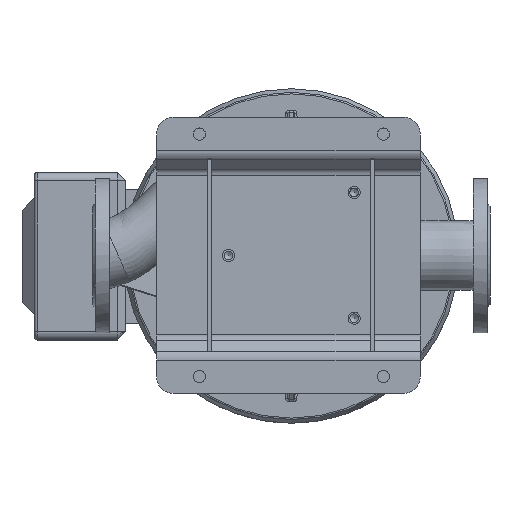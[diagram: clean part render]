
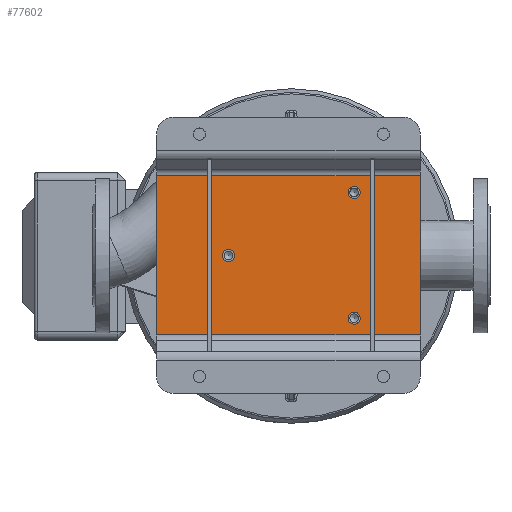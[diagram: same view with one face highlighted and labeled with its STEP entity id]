
A CAD part, top view. The second image highlights one B-rep face of the part: STEP entity #77602.
In plain terms, the highlighted planar face has unit normal (0, 0, 1) as drawn and (0, -1, 0) by its records, which use the part's own axes.
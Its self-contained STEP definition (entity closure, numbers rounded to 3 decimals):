
#2511 = EDGE_CURVE ( 'NONE', #83772, #73827, #88383, .T. ) ;
#5083 = VECTOR ( 'NONE', #79315, 1000. ) ;
#5724 = LINE ( 'NONE', #79782, #5083 ) ;
#7248 = CARTESIAN_POINT ( 'NONE',  ( 95., -5., -161. ) ) ;
#7690 = LINE ( 'NONE', #22869, #32623 ) ;
#8529 = DIRECTION ( 'NONE',  ( 0., -1., 0. ) ) ;
#8721 = CARTESIAN_POINT ( 'NONE',  ( 95., -5., 154. ) ) ;
#9682 = VERTEX_POINT ( 'NONE', #14560 ) ;
#10979 = ORIENTED_EDGE ( 'NONE', *, *, #44905, .F. ) ;
#11574 = CIRCLE ( 'NONE', #25689, 7.25 ) ;
#12175 = CIRCLE ( 'NONE', #49801, 7.25 ) ;
#13720 = EDGE_LOOP ( 'NONE', ( #10979 ) ) ;
#13795 = ORIENTED_EDGE ( 'NONE', *, *, #92319, .F. ) ;
#14560 = CARTESIAN_POINT ( 'NONE',  ( -95., -5., 154. ) ) ;
#14676 = FACE_BOUND ( 'NONE', #13720, .T. ) ;
#15085 = VERTEX_POINT ( 'NONE', #38144 ) ;
#15633 = PLANE ( 'NONE',  #82169 ) ;
#19540 = EDGE_LOOP ( 'NONE', ( #50595 ) ) ;
#21175 = DIRECTION ( 'NONE',  ( -1., 0., 0. ) ) ;
#22869 = CARTESIAN_POINT ( 'NONE',  ( -95., -5., 154. ) ) ;
#24053 = DIRECTION ( 'NONE',  ( 0., 0., -1. ) ) ;
#25689 = AXIS2_PLACEMENT_3D ( 'NONE', #91285, #32883, #24053 ) ;
#26894 = ORIENTED_EDGE ( 'NONE', *, *, #58287, .F. ) ;
#30840 = CARTESIAN_POINT ( 'NONE',  ( 0., -5., 0. ) ) ;
#31395 = CARTESIAN_POINT ( 'NONE',  ( -95., -5., -161. ) ) ;
#32623 = VECTOR ( 'NONE', #67533, 1000. ) ;
#32883 = DIRECTION ( 'NONE',  ( 0., -1., 0. ) ) ;
#36719 = DIRECTION ( 'NONE',  ( 0., -1., 0. ) ) ;
#37052 = EDGE_LOOP ( 'NONE', ( #13795 ) ) ;
#37241 = DIRECTION ( 'NONE',  ( 0., 0., -1. ) ) ;
#37733 = FACE_BOUND ( 'NONE', #19540, .T. ) ;
#38144 = CARTESIAN_POINT ( 'NONE',  ( 75., -5., 67.75 ) ) ;
#38452 = DIRECTION ( 'NONE',  ( 0., 0., -1. ) ) ;
#40685 = CARTESIAN_POINT ( 'NONE',  ( 95., -5., 154. ) ) ;
#44905 = EDGE_CURVE ( 'NONE', #90740, #90740, #58649, .T. ) ;
#45583 = DIRECTION ( 'NONE',  ( 0., -1., 0. ) ) ;
#49801 = AXIS2_PLACEMENT_3D ( 'NONE', #58810, #36719, #81359 ) ;
#50595 = ORIENTED_EDGE ( 'NONE', *, *, #75299, .F. ) ;
#58287 = EDGE_CURVE ( 'NONE', #9682, #83986, #5724, .T. ) ;
#58649 = CIRCLE ( 'NONE', #83755, 7.25 ) ;
#58810 = CARTESIAN_POINT ( 'NONE',  ( 75., -5., 75. ) ) ;
#60293 = FACE_BOUND ( 'NONE', #37052, .T. ) ;
#61469 = CARTESIAN_POINT ( 'NONE',  ( -75., -5., 75. ) ) ;
#67292 = EDGE_LOOP ( 'NONE', ( #93213, #26894, #77928, #84731 ) ) ;
#67533 = DIRECTION ( 'NONE',  ( 0., 0., 1. ) ) ;
#69664 = DIRECTION ( 'NONE',  ( 0., 0., -1. ) ) ;
#72250 = CARTESIAN_POINT ( 'NONE',  ( -95., -5., -161. ) ) ;
#73827 = VERTEX_POINT ( 'NONE', #31395 ) ;
#74088 = CARTESIAN_POINT ( 'NONE',  ( -75., -5., 67.75 ) ) ;
#74460 = CARTESIAN_POINT ( 'NONE',  ( 0., -5., -82.25 ) ) ;
#75299 = EDGE_CURVE ( 'NONE', #89622, #89622, #11574, .T. ) ;
#77599 = VECTOR ( 'NONE', #69664, 1000. ) ;
#77602 = ADVANCED_FACE ( 'NONE', ( #60293, #37733, #14676, #82871 ), #15633, .T. ) ;
#77928 = ORIENTED_EDGE ( 'NONE', *, *, #94368, .F. ) ;
#79315 = DIRECTION ( 'NONE',  ( 1., 0., 0. ) ) ;
#79782 = CARTESIAN_POINT ( 'NONE',  ( -95., -5., 154. ) ) ;
#81359 = DIRECTION ( 'NONE',  ( 0., 0., -1. ) ) ;
#82169 = AXIS2_PLACEMENT_3D ( 'NONE', #30840, #45583, #37241 ) ;
#82871 = FACE_OUTER_BOUND ( 'NONE', #67292, .T. ) ;
#83319 = EDGE_CURVE ( 'NONE', #83986, #83772, #83886, .T. ) ;
#83755 = AXIS2_PLACEMENT_3D ( 'NONE', #61469, #8529, #38452 ) ;
#83772 = VERTEX_POINT ( 'NONE', #7248 ) ;
#83886 = LINE ( 'NONE', #40685, #77599 ) ;
#83986 = VERTEX_POINT ( 'NONE', #8721 ) ;
#84731 = ORIENTED_EDGE ( 'NONE', *, *, #2511, .F. ) ;
#88341 = VECTOR ( 'NONE', #21175, 1000. ) ;
#88383 = LINE ( 'NONE', #72250, #88341 ) ;
#89622 = VERTEX_POINT ( 'NONE', #74460 ) ;
#90740 = VERTEX_POINT ( 'NONE', #74088 ) ;
#91285 = CARTESIAN_POINT ( 'NONE',  ( 0., -5., -75. ) ) ;
#92319 = EDGE_CURVE ( 'NONE', #15085, #15085, #12175, .T. ) ;
#93213 = ORIENTED_EDGE ( 'NONE', *, *, #83319, .F. ) ;
#94368 = EDGE_CURVE ( 'NONE', #73827, #9682, #7690, .T. ) ;
